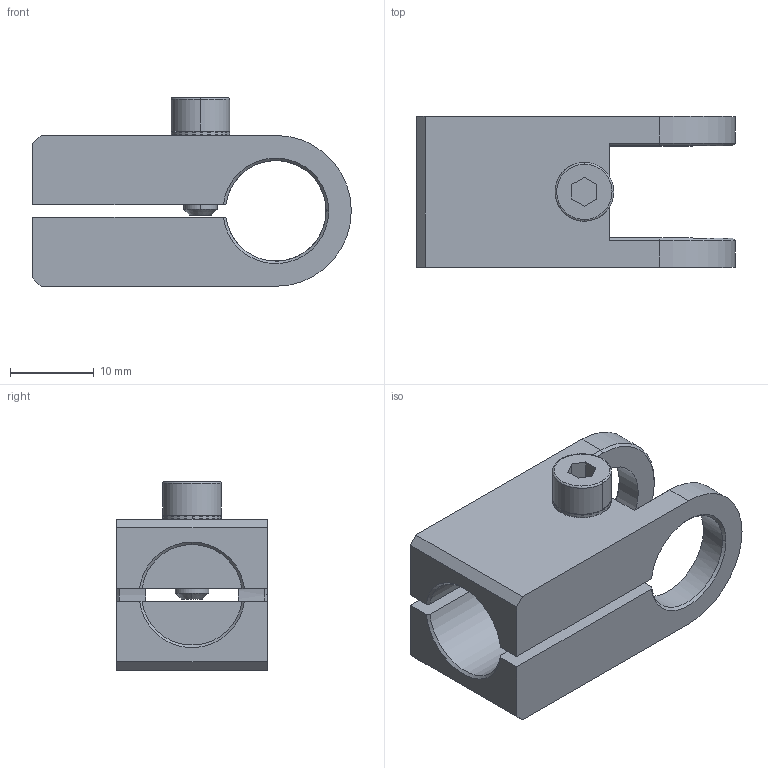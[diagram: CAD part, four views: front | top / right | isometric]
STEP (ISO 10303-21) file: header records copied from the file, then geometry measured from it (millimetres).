
FILE_DESCRIPTION (( 'STEP AP214' ), '1' );
FILE_NAME ('SMBR7-1212.STEP', '2019-11-07T02:28:12', ( '微软用户' ), ( '微软中国' ), 'SwSTEP 2.0', 'SolidWorks 2016', '' );
FILE_SCHEMA (( 'AUTOMOTIVE_DESIGN' ));
Length unit declared in the file: millimetre
Products named in the file (1): SMBR7-1212
Bounding box: 38 x 18 x 22.5 mm (x, y, z)
Volume: 6138.9 mm3; surface area: 4592 mm2
Topology: 3 solids, 3 shells, 260 faces, 749 edges, 493 vertices
Faces by surface type: plane 222, cylinder 21, cone 15, bspline 2
Entity records: 11607 total; most frequent: CARTESIAN_POINT 1651, DIRECTION 1500, ORIENTED_EDGE 1498, EDGE_CURVE 749, AXIS2_PLACEMENT_3D 504, VERTEX_POINT 493, LINE 492, VECTOR 492
